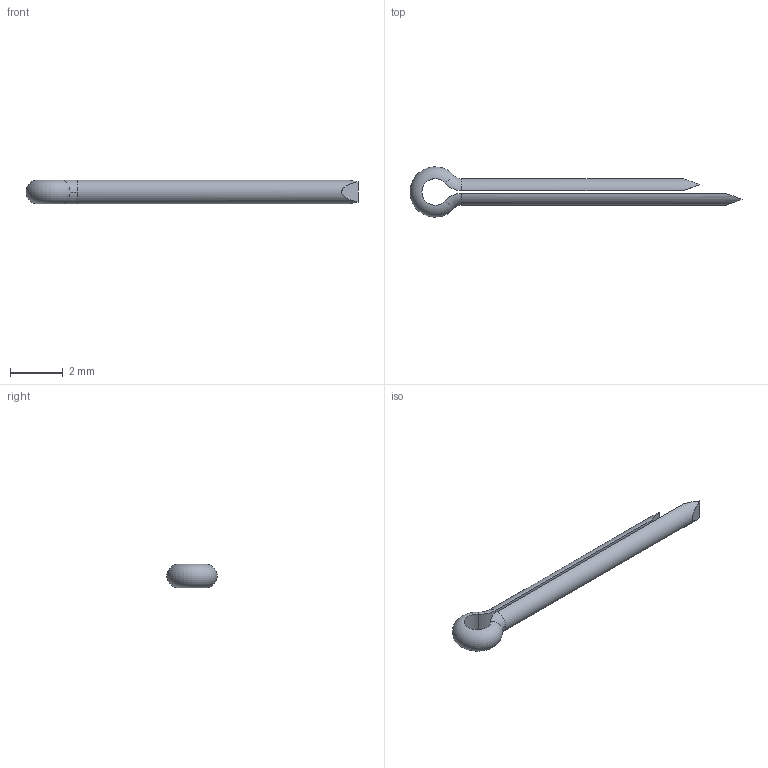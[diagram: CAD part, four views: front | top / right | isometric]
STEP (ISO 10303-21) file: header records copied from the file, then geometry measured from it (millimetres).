
FILE_DESCRIPTION (( 'STEP AP203' ), '1' );
FILE_NAME ('65674.0010.step', '2014-01-07T16:35:25', ( 'User' ), ( '' ), 'SwSTEP 2.0', 'SolidWorks 2009', '' );
FILE_SCHEMA (( 'CONFIG_CONTROL_DESIGN' ));
Length unit declared in the file: millimetre
Products named in the file (1): 65674.0010
Bounding box: 12.55 x 1.9 x 0.9 mm (x, y, z)
Volume: 7.5 mm3; surface area: 55.2 mm2
Topology: 1 solids, 1 shells, 16 faces, 34 edges, 20 vertices
Faces by surface type: plane 6, torus 5, cylinder 5
Entity records: 507 total; most frequent: CARTESIAN_POINT 89, DIRECTION 78, ORIENTED_EDGE 68, EDGE_CURVE 34, AXIS2_PLACEMENT_3D 33, VERTEX_POINT 20, FACE_OUTER_BOUND 16, EDGE_LOOP 16
